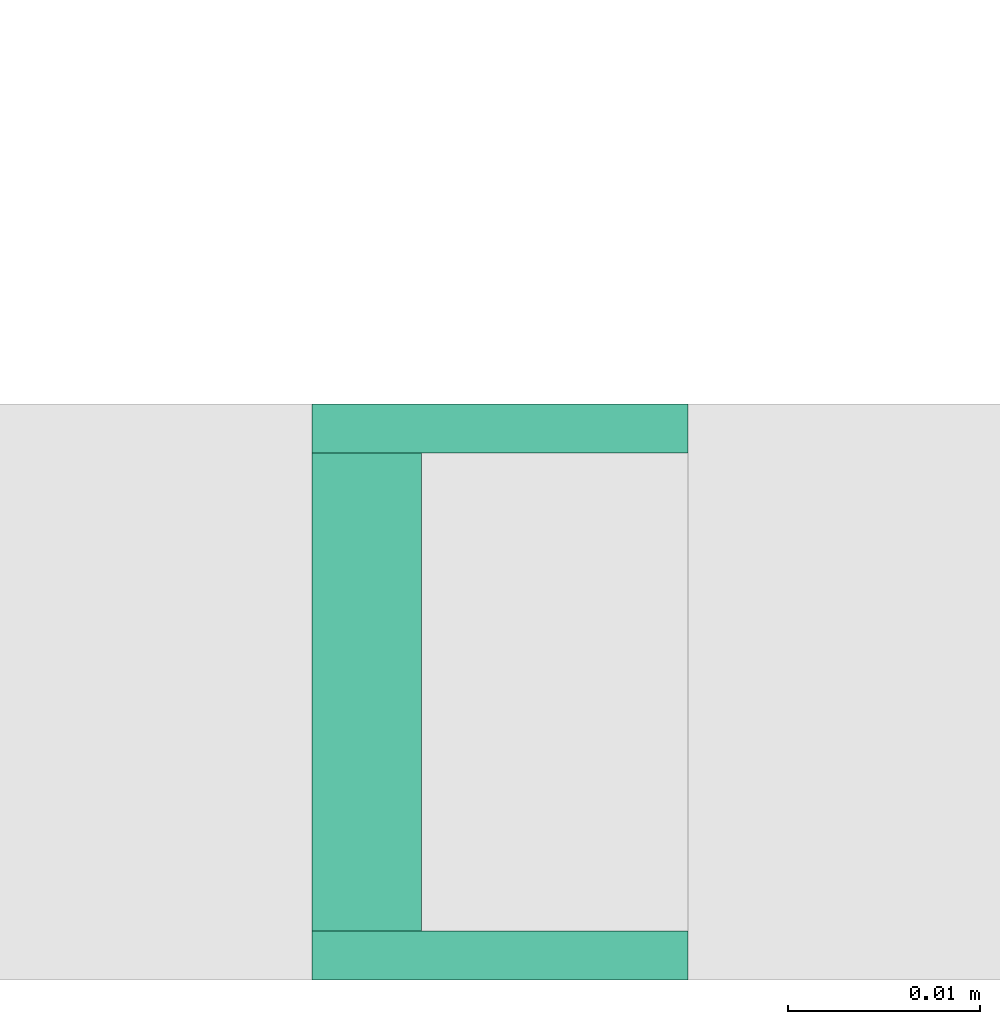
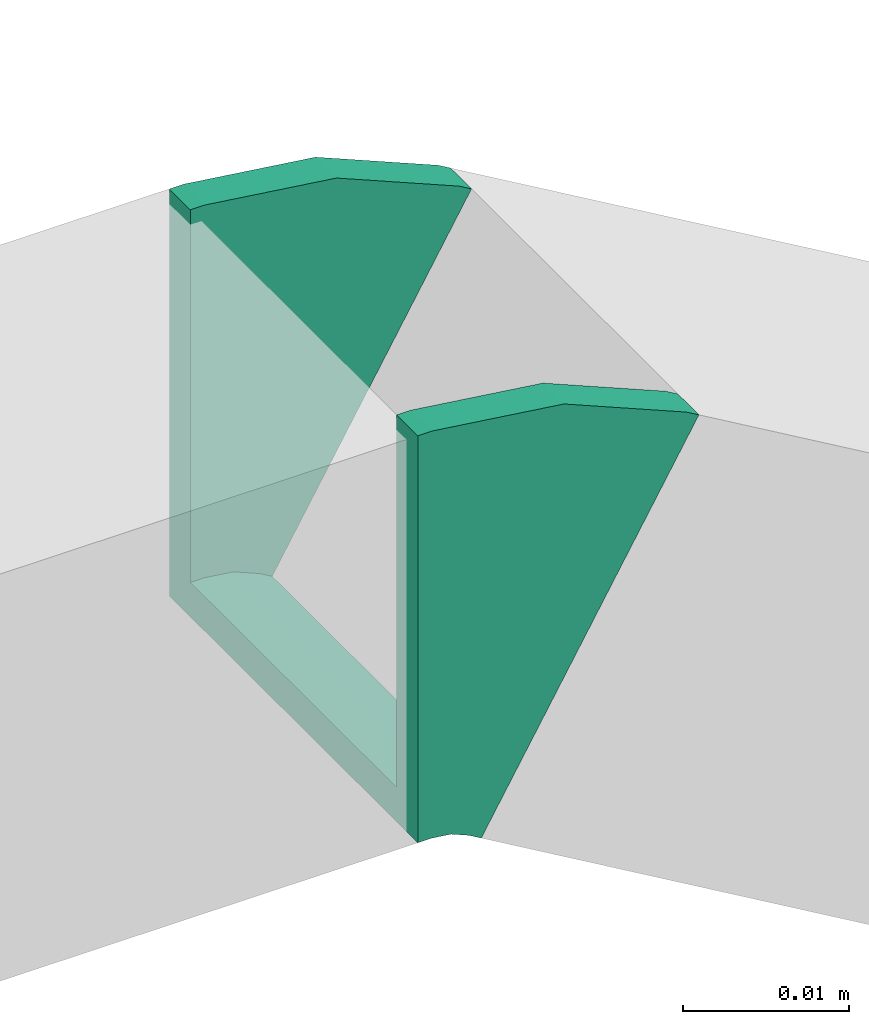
# One storey, part 147 of 153: 1 flow fitting.
"""IFC2X3 building model written with IfcOpenShell, lengths in metres."""

from ifc_helpers import new_model, entity, si_unit, converted_unit, derived_unit, direction, frame, origin, place, context, subcontext, project, spatial, faceted_brep, source, transform, mapped, type_object, type_shapes, element, save


model = new_model("IFC2X3")

# Units and contexts
model_context = context("Model", 3, precision=1e-05, world=origin(), true_north=direction((6.12303176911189e-17, 1.0)))
body_context = subcontext(model_context, "Body", "Model", "MODEL_VIEW")
ifc_project = project(units=[si_unit("LENGTHUNIT", "METRE"), si_unit("AREAUNIT", "SQUARE_METRE"), si_unit("VOLUMEUNIT", "CUBIC_METRE"), converted_unit("PLANEANGLEUNIT", "DEGREE", entity("IfcRatioMeasure", 0.0174532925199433), si_unit("PLANEANGLEUNIT", "RADIAN"), dimensions=[0, 0, 0, 0, 0, 0, 0]), si_unit("MASSUNIT", "GRAM", prefix="KILO"), derived_unit("MASSDENSITYUNIT", [(si_unit("MASSUNIT", "GRAM", prefix="KILO"), 1), (si_unit("LENGTHUNIT", "METRE"), -3)]), si_unit("TIMEUNIT", "SECOND"), si_unit("FREQUENCYUNIT", "HERTZ"), si_unit("THERMODYNAMICTEMPERATUREUNIT", "DEGREE_CELSIUS"), derived_unit("THERMALTRANSMITTANCEUNIT", [(si_unit("MASSUNIT", "GRAM", prefix="KILO"), 1), (si_unit("THERMODYNAMICTEMPERATUREUNIT", "KELVIN"), -1), (si_unit("TIMEUNIT", "SECOND"), -3)]), derived_unit("VOLUMETRICFLOWRATEUNIT", [(si_unit("LENGTHUNIT", "METRE"), 3), (si_unit("TIMEUNIT", "SECOND"), -1)]), si_unit("ELECTRICCURRENTUNIT", "AMPERE"), si_unit("ELECTRICVOLTAGEUNIT", "VOLT"), si_unit("POWERUNIT", "WATT"), si_unit("FORCEUNIT", "NEWTON"), si_unit("ILLUMINANCEUNIT", "LUX"), si_unit("LUMINOUSFLUXUNIT", "LUMEN"), si_unit("LUMINOUSINTENSITYUNIT", "CANDELA"), derived_unit("USERDEFINED", [(si_unit("MASSUNIT", "GRAM", prefix="KILO"), -1), (si_unit("LENGTHUNIT", "METRE"), -2), (si_unit("TIMEUNIT", "SECOND"), 3), (si_unit("LUMINOUSFLUXUNIT", "LUMEN"), 1)]), derived_unit("LINEARVELOCITYUNIT", [(si_unit("LENGTHUNIT", "METRE"), 1), (si_unit("TIMEUNIT", "SECOND"), -1)]), si_unit("PRESSUREUNIT", "PASCAL"), derived_unit("USERDEFINED", [(si_unit("LENGTHUNIT", "METRE"), -2), (si_unit("MASSUNIT", "GRAM", prefix="KILO"), 1), (si_unit("TIMEUNIT", "SECOND"), -2)])], contexts=[model_context])

# Site, building, storey
site_placement = place(None, origin())
site = spatial("IfcSite", under=ifc_project, at=site_placement, Name="Default", CompositionType="ELEMENT")
building_placement = place(site_placement, origin())
building = spatial("IfcBuilding", under=site, at=building_placement, CompositionType="ELEMENT")
storey_placement = place(building_placement, frame((0.0, 0.0, -4.62)))
storey = spatial("IfcBuildingStorey", under=building, at=storey_placement, Name="S02", CompositionType="ELEMENT", Elevation=-4.62)

# Flow fitting
cable_carrier_fitting_type = type_object("IfcCableCarrierFittingType", Name="E_Bend_Vertical_Outside_CA_Generic_MEPcontent", PredefinedType="NOTDEFINED")
shared_shape = source(origin(), body_context, "Body", "Brep", [
    faceted_brep([(-0.00288263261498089, 0.0156974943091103, 0.015), (0.0122889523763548, -0.0101834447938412, 0.015), (0.0122889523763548, -0.0101834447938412, 0.01246000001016), (-0.00159810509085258, 0.0135062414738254, 0.01246000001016), (-0.00159810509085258, 0.0135062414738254, -0.01246000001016), (0.0122889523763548, -0.0101834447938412, -0.01246000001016), (0.0122889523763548, -0.0101834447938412, -0.015), (-0.00288263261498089, 0.0156974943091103, -0.015), (-0.00288263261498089, 0.0156974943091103, -0.00516262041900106), (-0.00288263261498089, 0.0156974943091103, 0.00467475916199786), (-0.00545168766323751, 0.015, -0.015), (-0.00545168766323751, -0.015, -0.015), (-0.00545168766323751, -0.015, -0.01246000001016), (-0.00545168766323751, 0.01246000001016, -0.01246000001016), (-0.00545168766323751, 0.01246000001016, 0.01246000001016), (-0.00545168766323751, -0.015, 0.01246000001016), (-0.00545168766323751, -0.015, 0.015), (-0.00545168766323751, 0.015, 0.015), (-0.00545168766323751, 0.015, 0.0), (0.0037397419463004, -0.0137744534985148, 0.015), (-0.00412065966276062, 0.0151774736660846, 0.015), (0.0037397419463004, -0.0137744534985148, 0.01246000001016), (0.0037397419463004, -0.0137744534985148, -0.015), (0.0037397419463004, -0.0137744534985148, -0.01246000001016), (-0.00345514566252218, 0.0127262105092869, 0.01246000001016), (-0.00345514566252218, 0.0127262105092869, -0.01246000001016), (-0.00412065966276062, 0.0151774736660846, -0.015), (-0.00403546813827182, 0.0152014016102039, -0.000243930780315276)], [[[0, 1, 2, 3, 4, 5, 6, 7, 8, 9]], [[10, 11, 12, 13, 14, 15, 16, 17, 18]], [[17, 16, 19, 1, 0, 20]], [[15, 21, 19, 16]], [[12, 11, 22, 23]], [[19, 21, 2, 1]], [[22, 6, 5, 23]], [[24, 3, 2, 21, 15, 14]], [[14, 13, 25, 24]], [[25, 4, 3, 24]], [[13, 12, 23, 5, 4, 25]], [[26, 7, 6, 22, 11, 10]], [[8, 27, 9]], [[27, 8, 26]], [[20, 27, 18]], [[26, 10, 18]], [[17, 20, 18]], [[9, 27, 20]], [[9, 20, 0]], [[8, 7, 26]], [[18, 27, 26]]]),
    faceted_brep([(-0.00288263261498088, 0.0156974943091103, 0.015), (-0.00288263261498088, 0.0156974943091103, -0.015), (0.0122889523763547, -0.0101834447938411, -0.015), (0.0122889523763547, -0.0101834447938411, -0.01246000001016), (-0.00159810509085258, 0.0135062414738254, -0.01246000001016), (-0.00159810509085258, 0.0135062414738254, 0.01246000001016), (0.0122889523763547, -0.0101834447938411, 0.01246000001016), (0.0122889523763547, -0.0101834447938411, 0.015), (-0.00201993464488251, 0.0162032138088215, 0.015), (0.0131516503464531, -0.00967772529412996, 0.015), (0.0131516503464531, -0.00967772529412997, 0.01246000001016), (-0.000735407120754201, 0.0140119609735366, 0.01246000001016), (-0.000735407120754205, 0.0140119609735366, -0.01246000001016), (0.0131516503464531, -0.00967772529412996, -0.01246000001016), (0.0131516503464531, -0.00967772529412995, -0.015), (-0.00201993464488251, 0.0162032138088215, -0.015)], [[[0, 1, 2, 3, 4, 5, 6, 7]], [[8, 9, 10, 11, 12, 13, 14, 15]], [[1, 0, 8, 15]], [[2, 1, 15, 14]], [[3, 2, 14, 13]], [[4, 3, 13, 12]], [[5, 4, 12, 11]], [[6, 5, 11, 10]], [[7, 6, 10, 9]], [[0, 7, 9, 8]]]),
    faceted_brep([(-0.00545168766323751, 0.015, 0.015), (-0.00545168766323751, -0.015, 0.015), (-0.00545168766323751, -0.015, 0.01246000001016), (-0.00545168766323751, 0.01246000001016, 0.01246000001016), (-0.00545168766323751, 0.01246000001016, -0.01246000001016), (-0.00545168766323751, -0.015, -0.01246000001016), (-0.00545168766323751, -0.015, -0.015), (-0.00545168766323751, 0.015, -0.015), (-0.0064516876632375, 0.015, 0.015), (-0.0064516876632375, 0.015, -0.015), (-0.0064516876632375, -0.015, -0.015), (-0.0064516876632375, -0.015, -0.01246000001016), (-0.0064516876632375, 0.01246000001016, -0.01246000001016), (-0.0064516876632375, 0.01246000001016, 0.01246000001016), (-0.0064516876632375, -0.015, 0.01246000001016), (-0.0064516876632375, -0.015, 0.015)], [[[0, 1, 2, 3, 4, 5, 6, 7]], [[8, 9, 10, 11, 12, 13, 14, 15]], [[1, 0, 8, 15]], [[2, 1, 15, 14]], [[3, 2, 14, 13]], [[4, 3, 13, 12]], [[5, 4, 12, 11]], [[6, 5, 11, 10]], [[7, 6, 10, 9]], [[0, 7, 9, 8]]]),
])
type_shapes(cable_carrier_fitting_type, [shared_shape])
flow_fitting_placement = place(storey_placement, frame((61.1849173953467, -195.835320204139, 3.21787124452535), z_axis=(0.0, -1.0, 0.0), x_axis=(-0.862697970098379, 0.0, 0.50571949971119)))
element("IfcFlowFitting", 1, at=flow_fitting_placement, inside=storey, type_object=cable_carrier_fitting_type, Name="E_Bend_Vertical_Outside_CA_Generic_MEPcontent:E_Bend_Vertical_Outside_CA_Generic_MEPcontent", ObjectType="E_Bend_Vertical_Outside_CA_Generic_MEPcontent:E_Bend_Vertical_Outside_CA_Generic_MEPcontent", context=body_context, shape_type="MappedRepresentation", body=[
    mapped(shared_shape, transform((0.0, 0.0, 0.0), scale=1.0)),
])

save(model, "model.ifc")
